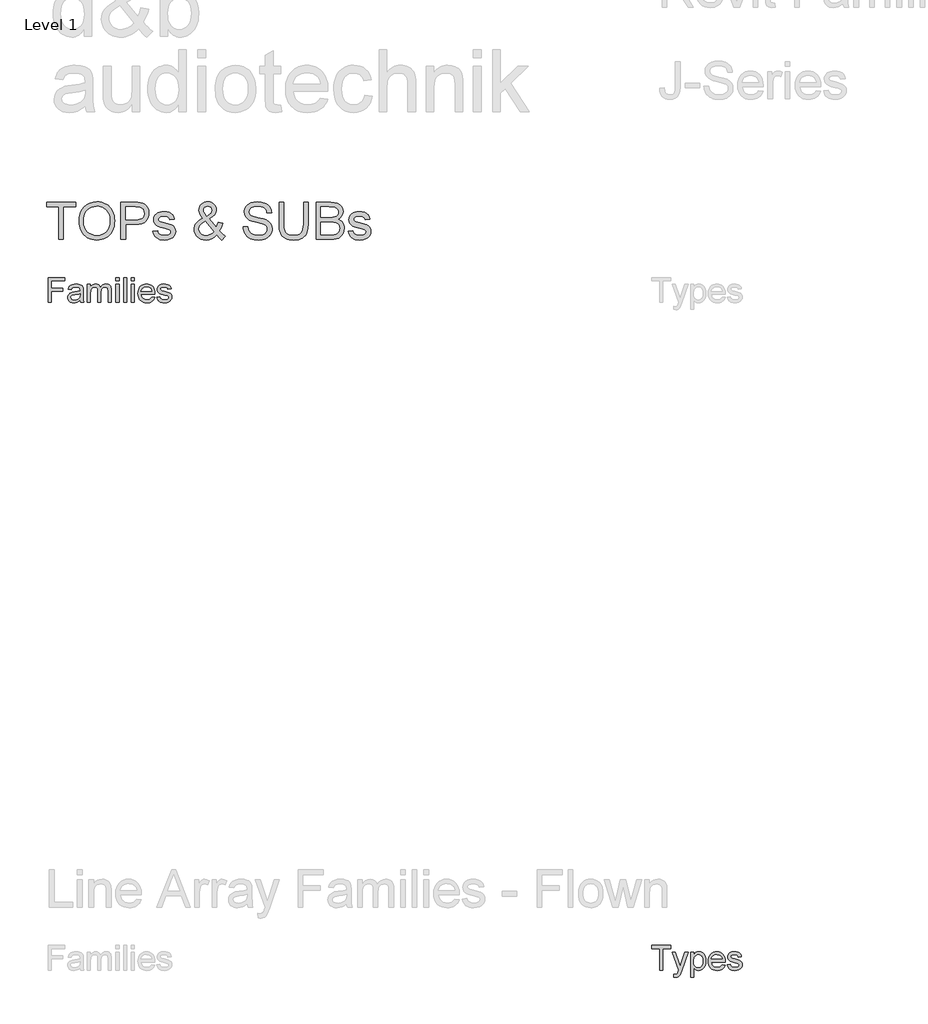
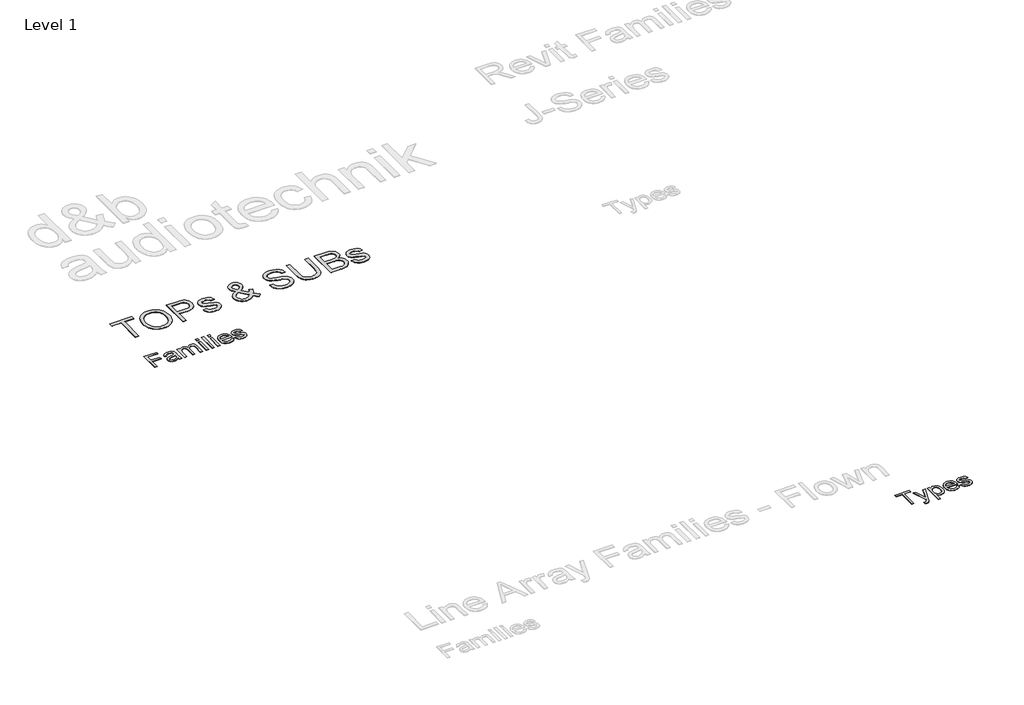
# One storey, part 5 of 7: 3 proxies.
"""IFC4 building model written with IfcOpenShell, lengths in millimetres."""

from ifc_helpers import new_model, si_unit, origin, origin_with_axes, place, context, project, spatial, polyline, outline, extrude, element, save

model = new_model("IFC4")

# Units and contexts
model_context = context("Model", 3, world=origin())
ifc_project = project(units=[si_unit("LENGTHUNIT", "METRE", prefix="MILLI")], contexts=[model_context])

# Site, building, storey
site = spatial("IfcSite", under=ifc_project)
building = spatial("IfcBuilding", under=site)
storey = spatial("IfcBuildingStorey", under=building, Name="Level 1", Elevation=0.0)

# Proxies
placement = place(None, origin())
element("IfcBuildingElementProxy", 1, Name="400mm Arial", ObjectType="400mm Arial", at=placement, inside=storey, context=model_context, shape_type="SweptSolid", body=[
    extrude(outline(polyline([(-21056.720891, 17351.3054836), (-21056.720891, 17743.0630593), (-20793.5087698, 17743.0630593), (-20793.5087698, 17694.0933624), (-21007.7511941, 17694.0933624), (-21007.7511941, 17577.7903321), (-20824.1148304, 17577.7903321), (-20824.1148304, 17528.8206351), (-21007.7511941, 17528.8206351), (-21007.7511941, 17351.3054836), (-21056.720891, 17351.3054836)])), origin_with_axes(), (0.0, 0.0, 1.0), 5.0),
    extrude(outline(polyline([(-20548.660285, 17388.0327563), (-20572.0571836, 17367.97144), (-20596.1475009, 17354.8443093), (-20621.4811893, 17347.5992809), (-20648.6082016, 17345.1842715), (-20670.4120309, 17346.6368638), (-20689.5318522, 17350.9946408), (-20705.9676654, 17358.2576024), (-20719.7194706, 17368.4257487), (-20730.5780466, 17380.8534831), (-20738.3341723, 17394.895209), (-20742.9878477, 17410.5509263), (-20744.5390729, 17427.8206351), (-20742.1957963, 17448.1210612), (-20735.1659668, 17466.5564305), (-20724.3223352, 17482.3376805), (-20710.5376524, 17494.6757487), (-20676.2493001, 17510.7439305), (-20633.879035, 17518.1085139), (-20583.8094327, 17525.855673), (-20548.9472168, 17534.9418472), (-20548.660285, 17545.8452563), (-20552.0317338, 17567.6998965), (-20562.1460804, 17581.9986654), (-20584.7658721, 17592.6151427), (-20616.2805501, 17596.1539684), (-20645.4519516, 17593.7987364), (-20665.8241107, 17586.7330404), (-20679.7163929, 17573.6656872), (-20689.4481638, 17553.3054836), (-20738.4178607, 17559.4266957), (-20729.9175056, 17586.2069987), (-20717.2327282, 17607.2486654), (-20699.1799346, 17623.3407582), (-20674.5755312, 17635.2723396), (-20644.4835568, 17642.660834), (-20609.9680501, 17645.1236654), (-20576.8632916, 17642.9477658), (-20550.6209857, 17636.4200669), (-20530.8346458, 17626.6046076), (-20517.097785, 17614.5654268), (-20507.9876997, 17599.6808387), (-20502.0816865, 17581.3291578), (-20499.690588, 17538.480673), (-20499.690588, 17477.5554836), (-20497.2038456, 17392.4801995), (-20487.4481638, 17351.3054836), (-20536.4178607, 17351.3054836), (-20544.2606638, 17368.3301048), (-20548.660285, 17388.0327563)]), holes=[polyline([(-20548.660285, 17485.9721502), (-20581.5618001, 17477.8185044), (-20627.6621789, 17470.9560518), (-20669.7933342, 17463.0176048), (-20680.7565208, 17457.5898112), (-20688.8743001, 17450.105673), (-20693.8956069, 17441.1390536), (-20695.5693759, 17431.2638169), (-20691.9229507, 17416.7020271), (-20680.9836751, 17404.7704457), (-20662.990659, 17396.8080877), (-20638.1830122, 17394.1539684), (-20611.8809289, 17397.0830641), (-20588.6394516, 17405.870351), (-20569.7975956, 17418.8181493), (-20556.6943759, 17434.228779), (-20550.8840066, 17450.105673), (-20548.9472168, 17472.103779), (-20548.660285, 17485.9721502)])]), origin_with_axes(), (0.0, 0.0, 1.0), 5.0),
    extrude(outline(polyline([(-20432.3572547, 17351.3054836), (-20432.3572547, 17639.0024533), (-20383.3875577, 17639.0024533), (-20383.3875577, 17591.6587033), (-20368.658391, 17613.405744), (-20349.720891, 17630.4423207), (-20327.2206543, 17641.4533292), (-20301.8032774, 17645.1236654), (-20274.5686657, 17641.3815963), (-20252.7379365, 17630.1553889), (-20236.4306448, 17612.1862838), (-20225.7663456, 17588.2155215), (-20207.9167954, 17613.1128344), (-20187.5565918, 17630.8966294), (-20164.6857348, 17641.5669064), (-20139.3042244, 17645.1236654), (-20119.7002057, 17643.6441732), (-20102.4932632, 17639.2056966), (-20087.683397, 17631.8082357), (-20075.2706069, 17621.4517904), (-20065.4581365, 17608.0168058), (-20058.4492291, 17591.3837269), (-20054.2438846, 17571.5525539), (-20052.8421032, 17548.5232866), (-20052.8421032, 17351.3054836), (-20101.8118001, 17351.3054836), (-20101.8118001, 17527.4816199), (-20106.3548872, 17568.369404), (-20112.7391202, 17579.6434334), (-20122.8056448, 17588.5024533), (-20135.7534431, 17594.2410896), (-20150.7814971, 17596.1539684), (-20177.3107348, 17591.2522165), (-20198.9382206, 17576.5469608), (-20207.3279874, 17565.2669537), (-20213.320678, 17551.03394), (-20218.1148304, 17513.7088927), (-20218.1148304, 17351.3054836), (-20267.0845274, 17351.3054836), (-20267.0845274, 17532.9333245), (-20269.9179791, 17560.6222449), (-20278.4183342, 17580.3727184), (-20293.3746552, 17592.2086559), (-20315.5760047, 17596.1539684), (-20334.4417717, 17593.5237601), (-20351.8250577, 17585.6331351), (-20366.1716486, 17572.6733813), (-20375.9273304, 17554.8357866), (-20381.5225009, 17530.0879173), (-20383.3875577, 17496.3973396), (-20383.3875577, 17351.3054836), (-20432.3572547, 17351.3054836)])), origin_with_axes(), (0.0, 0.0, 1.0), 5.0),
    extrude(outline(polyline([(-19979.3875577, 17351.3054836), (-19979.3875577, 17639.0024533), (-19930.4178607, 17639.0024533), (-19930.4178607, 17351.3054836), (-19979.3875577, 17351.3054836)])), origin_with_axes(), (0.0, 0.0, 1.0), 5.0),
    extrude(outline(polyline([(-19979.3875577, 17694.0933624), (-19979.3875577, 17743.0630593), (-19930.4178607, 17743.0630593), (-19930.4178607, 17694.0933624), (-19979.3875577, 17694.0933624)])), origin_with_axes(), (0.0, 0.0, 1.0), 5.0),
    extrude(outline(polyline([(-19856.9633153, 17351.3054836), (-19856.9633153, 17743.0630593), (-19807.9936183, 17743.0630593), (-19807.9936183, 17351.3054836), (-19856.9633153, 17351.3054836)])), origin_with_axes(), (0.0, 0.0, 1.0), 5.0),
    extrude(outline(polyline([(-19734.5390729, 17351.3054836), (-19734.5390729, 17639.0024533), (-19685.5693759, 17639.0024533), (-19685.5693759, 17351.3054836), (-19734.5390729, 17351.3054836)])), origin_with_axes(), (0.0, 0.0, 1.0), 5.0),
    extrude(outline(polyline([(-19734.5390729, 17694.0933624), (-19734.5390729, 17743.0630593), (-19685.5693759, 17743.0630593), (-19685.5693759, 17694.0933624), (-19734.5390729, 17694.0933624)])), origin_with_axes(), (0.0, 0.0, 1.0), 5.0),
    extrude(outline(polyline([(-19410.6886941, 17437.0024533), (-19362.6754365, 17430.8812411), (-19370.0370309, 17411.6508316), (-19379.975034, 17394.7039211), (-19392.4894457, 17380.0405096), (-19407.580266, 17367.6605972), (-19425.0920736, 17357.8272047), (-19444.8694469, 17350.8033529), (-19491.220891, 17345.1842715), (-19521.605775, 17347.6082475), (-19548.6789876, 17354.8801758), (-19572.4405288, 17367.0000563), (-19592.8903986, 17383.9678889), (-19609.3351784, 17405.3114317), (-19621.0814497, 17430.5584429), (-19628.1292125, 17459.7089223), (-19630.4784668, 17492.7628699), (-19628.1053015, 17526.937645), (-19620.9858058, 17557.0595082), (-19609.1199796, 17583.1284594), (-19592.5078229, 17605.1444987), (-19572.1117528, 17622.6353841), (-19548.8941865, 17635.1288737), (-19522.855124, 17642.6249675), (-19493.9945653, 17645.1236654), (-19466.0635461, 17642.6309452), (-19440.8045795, 17635.1527847), (-19418.2176654, 17622.6891839), (-19398.3028039, 17605.2401427), (-19382.0463231, 17583.2719253), (-19370.4345511, 17557.2507961), (-19363.4674879, 17527.1767549), (-19361.1451335, 17493.0498018), (-19361.4320653, 17479.8509381), (-19581.5087698, 17479.8509381), (-19578.6723292, 17460.3096858), (-19573.0323257, 17443.1953983), (-19564.5887592, 17428.5080759), (-19553.3416297, 17416.2477184), (-19524.9234242, 17399.6774059), (-19490.2644516, 17394.1539684), (-19464.2014782, 17396.7124438), (-19442.2511941, 17404.3878699), (-19424.4135994, 17417.6584665), (-19410.6886941, 17437.0024533)]), holes=[polyline([(-19581.5087698, 17528.8206351), (-19410.1148304, 17528.8206351), (-19416.7381732, 17554.6923207), (-19429.721838, 17573.199423), (-19443.076123, 17583.2420366), (-19458.2715539, 17590.4153321), (-19494.1858532, 17596.1539684), (-19527.1949677, 17591.5750148), (-19554.4893569, 17577.838154), (-19573.4627234, 17556.4258671), (-19581.5087698, 17528.8206351)])]), origin_with_axes(), (0.0, 0.0, 1.0), 5.0),
    extrude(outline(polyline([(-19330.5390729, 17437.0024533), (-19281.5693759, 17443.1236654), (-19273.8461278, 17422.1776427), (-19258.9017622, 17406.7789684), (-19236.6406354, 17397.3102184), (-19206.9671032, 17394.1539684), (-19177.6522357, 17397.0471976), (-19157.0409668, 17405.7268851), (-19144.8463645, 17418.3040631), (-19140.7814971, 17432.8897639), (-19144.8702755, 17445.371298), (-19157.1366107, 17454.8878699), (-19207.5409668, 17468.8518851), (-19281.2824441, 17492.8106919), (-19299.9449677, 17504.8498728), (-19313.4666297, 17520.7865442), (-19321.680053, 17539.6044893), (-19324.4178607, 17560.2874911), (-19322.2180501, 17579.2608576), (-19315.6186183, 17596.775654), (-19305.2173399, 17612.1384618), (-19291.6119895, 17624.6558624), (-19260.4798872, 17639.1459192), (-19218.3487319, 17645.1236654), (-19186.4753891, 17642.7206114), (-19158.7625577, 17635.5114495), (-19136.4775198, 17624.2015536), (-19120.8875577, 17609.496298), (-19110.5580122, 17590.3077326), (-19104.0542244, 17565.5479078), (-19153.0239213, 17559.4266957), (-19159.2049109, 17574.8373254), (-19171.4353797, 17586.4461086), (-19189.8348825, 17593.7270035), (-19214.5229744, 17596.1539684), (-19242.6422925, 17593.8346029), (-19261.3885047, 17586.8765063), (-19271.933249, 17576.8338927), (-19275.4481638, 17565.260976), (-19269.6138835, 17551.010029), (-19251.345891, 17540.2022639), (-19209.1669138, 17529.7770745), (-19137.2904933, 17506.7268851), (-19118.3051713, 17495.7039211), (-19103.9107585, 17480.6160896), (-19094.8365397, 17461.4155688), (-19091.8118001, 17438.0545366), (-19095.3625814, 17413.9044419), (-19106.0149251, 17391.1890063), (-19123.3623446, 17371.6895982), (-19146.9983532, 17357.1875858), (-19175.5480691, 17348.1851), (-19207.6366107, 17345.1842715), (-19233.9924938, 17346.630886), (-19257.0127944, 17350.9707298), (-19276.6975127, 17358.2038027), (-19293.0466486, 17368.3301048), (-19306.4009336, 17381.3018141), (-19317.1010994, 17397.0711086), (-19325.1471458, 17415.6379883), (-19330.5390729, 17437.0024533)])), origin_with_axes(), (0.0, 0.0, 1.0), 5.0),
])
element("IfcBuildingElementProxy", 2, Name="400mm Arial", ObjectType="400mm Arial", at=placement, inside=storey, context=model_context, shape_type="SweptSolid", body=[
    extrude(outline(polyline([(-11345.9583027, 6751.3054836), (-11345.9583027, 7094.0933624), (-11474.5037572, 7094.0933624), (-11474.5037572, 7143.0630593), (-11168.4431512, 7143.0630593), (-11168.4431512, 7094.0933624), (-11296.9886057, 7094.0933624), (-11296.9886057, 6751.3054836), (-11345.9583027, 6751.3054836)])), origin_with_axes(), (0.0, 0.0, 1.0), 5.0),
    extrude(outline(polyline([(-11119.4734542, 6641.1236654), (-11125.5946663, 6688.2761275), (-11100.7272421, 6683.9721502), (-11087.6479334, 6685.3231209), (-11077.4857648, 6689.3760328), (-11063.2348179, 6704.4399533), (-11049.8446663, 6740.4977184), (-11046.0189088, 6752.3575669), (-11150.0795148, 7039.0024533), (-11098.4317875, 7039.0024533), (-11043.2452345, 6879.2770745), (-11024.0208027, 6815.386923), (-11004.7963709, 6871.8168472), (-10948.0795148, 7039.0024533), (-10896.8143633, 7039.0024533), (-10996.9535679, 6744.4191199), (-11022.9687194, 6680.5289684), (-11036.2871379, 6660.1328983), (-11051.3749694, 6646.0015063), (-11068.9017213, 6637.7522165), (-11089.5369012, 6635.0024533), (-11119.4734542, 6641.1236654)])), origin_with_axes(), (0.0, 0.0, 1.0), 5.0),
    extrude(outline(polyline([(-10856.261333, 6641.1236654), (-10856.261333, 7039.0024533), (-10807.291636, 7039.0024533), (-10807.291636, 6990.9891957), (-10791.3190982, 7014.6730262), (-10773.4336815, 7031.590048), (-10752.5833027, 7041.740261), (-10727.7158785, 7045.1236654), (-10694.5991644, 7040.3892904), (-10665.6429618, 7026.1861654), (-10642.0667307, 7003.3750858), (-10625.0899315, 6972.8168472), (-10614.832119, 6936.7351711), (-10611.4128482, 6897.353779), (-10615.2744722, 6855.4736891), (-10626.8593444, 6818.0171313), (-10645.7968444, 6786.885029), (-10671.7163519, 6763.9783055), (-10701.9039703, 6749.88278), (-10733.6458027, 6745.1842715), (-10756.1579949, 6748.328566), (-10776.2551777, 6757.7614495), (-10793.4591313, 6772.000441), (-10807.291636, 6789.5630593), (-10807.291636, 6641.1236654), (-10856.261333, 6641.1236654)]), holes=[polyline([(-10807.291636, 6892.8585139), (-10801.9953529, 6848.9579457), (-10795.374999, 6831.9572355), (-10786.1065035, 6818.2562411), (-10762.6617828, 6800.1795366), (-10749.2447314, 6795.6603605), (-10734.697886, 6794.1539684), (-10719.9418195, 6795.7141602), (-10706.2796805, 6800.3947355), (-10682.2371853, 6819.1170366), (-10672.6757802, 6833.3141839), (-10665.8462052, 6850.9425574), (-10660.3825451, 6896.4929836), (-10665.7146947, 6940.1544419), (-10672.3798818, 6957.2866625), (-10681.7111436, 6971.2865442), (-10705.1199978, 6989.9371124), (-10718.3846166, 6994.5997544), (-10732.6893633, 6996.1539684), (-10746.9492769, 6994.5011216), (-10760.3663283, 6989.5425811), (-10784.6718444, 6969.7084192), (-10794.5680032, 6954.9882191), (-10801.6366881, 6937.2731682), (-10805.8778991, 6916.5632665), (-10807.291636, 6892.8585139)])]), origin_with_axes(), (0.0, 0.0, 1.0), 5.0),
    extrude(outline(polyline([(-10354.8958027, 6837.0024533), (-10306.8825451, 6830.8812411), (-10314.2441396, 6811.6508316), (-10324.1821427, 6794.7039211), (-10336.6965544, 6780.0405096), (-10351.7873747, 6767.6605972), (-10369.2991822, 6757.8272047), (-10389.0765555, 6750.8033529), (-10435.4279997, 6745.1842715), (-10465.8128837, 6747.6082475), (-10492.8860963, 6754.8801758), (-10516.6476375, 6767.0000563), (-10537.0975072, 6783.9678889), (-10553.5422871, 6805.3114317), (-10565.2885584, 6830.5584429), (-10572.3363212, 6859.7089223), (-10574.6855754, 6892.7628699), (-10572.3124102, 6926.937645), (-10565.1929144, 6957.0595082), (-10553.3270882, 6983.1284594), (-10536.7149315, 7005.1444987), (-10516.3188614, 7022.6353841), (-10493.1012951, 7035.1288737), (-10467.0622326, 7042.6249675), (-10438.2016739, 7045.1236654), (-10410.2706547, 7042.6309452), (-10385.0116881, 7035.1527847), (-10362.4247741, 7022.6891839), (-10342.5099125, 7005.2401427), (-10326.2534317, 6983.2719253), (-10314.6416597, 6957.2507961), (-10307.6745965, 6927.1767549), (-10305.3522421, 6893.0498018), (-10305.6391739, 6879.8509381), (-10525.7158785, 6879.8509381), (-10522.8794379, 6860.3096858), (-10517.2394343, 6843.1953983), (-10508.7958678, 6828.5080759), (-10497.5487383, 6816.2477184), (-10469.1305328, 6799.6774059), (-10434.4715603, 6794.1539684), (-10408.4085868, 6796.7124438), (-10386.4583027, 6804.3878699), (-10368.620708, 6817.6584665), (-10354.8958027, 6837.0024533)]), holes=[polyline([(-10525.7158785, 6928.8206351), (-10354.3219391, 6928.8206351), (-10360.9452819, 6954.6923207), (-10373.9289466, 6973.199423), (-10387.2832317, 6983.2420366), (-10402.4786625, 6990.4153321), (-10438.3929618, 6996.1539684), (-10471.4020764, 6991.5750148), (-10498.6964656, 6977.838154), (-10517.6698321, 6956.4258671), (-10525.7158785, 6928.8206351)])]), origin_with_axes(), (0.0, 0.0, 1.0), 5.0),
    extrude(outline(polyline([(-10274.7461815, 6837.0024533), (-10225.7764845, 6843.1236654), (-10218.0532364, 6822.1776427), (-10203.1088709, 6806.7789684), (-10180.847744, 6797.3102184), (-10151.1742118, 6794.1539684), (-10121.8593444, 6797.0471976), (-10101.2480754, 6805.7268851), (-10089.0534732, 6818.3040631), (-10084.9886057, 6832.8897639), (-10089.0773841, 6845.371298), (-10101.3437194, 6854.8878699), (-10151.7480754, 6868.8518851), (-10225.4895527, 6892.8106919), (-10244.1520764, 6904.8498728), (-10257.6737383, 6920.7865442), (-10265.8871616, 6939.6044893), (-10268.6249694, 6960.2874911), (-10266.4251588, 6979.2608576), (-10259.8257269, 6996.775654), (-10249.4244485, 7012.1384618), (-10235.8190982, 7024.6558624), (-10204.6869959, 7039.1459192), (-10162.5558406, 7045.1236654), (-10130.6824978, 7042.7206114), (-10102.9696663, 7035.5114495), (-10080.6846285, 7024.2015536), (-10065.0946663, 7009.496298), (-10054.7651209, 6990.3077326), (-10048.261333, 6965.5479078), (-10097.23103, 6959.4266957), (-10103.4120196, 6974.8373254), (-10115.6424883, 6986.4461086), (-10134.0419911, 6993.7270035), (-10158.730083, 6996.1539684), (-10186.8494012, 6993.8346029), (-10205.5956133, 6986.8765063), (-10216.1403576, 6976.8338927), (-10219.6552724, 6965.260976), (-10213.8209921, 6951.010029), (-10195.5529997, 6940.2022639), (-10153.3740224, 6929.7770745), (-10081.4976019, 6906.7268851), (-10062.51228, 6895.7039211), (-10048.1178671, 6880.6160896), (-10039.0436483, 6861.4155688), (-10036.0189088, 6838.0545366), (-10039.56969, 6813.9044419), (-10050.2220338, 6791.1890063), (-10067.5694533, 6771.6895982), (-10091.2054618, 6757.1875858), (-10119.7551777, 6748.1851), (-10151.8437194, 6745.1842715), (-10178.1996024, 6746.630886), (-10201.2199031, 6750.9707298), (-10220.9046214, 6758.2038027), (-10237.2537572, 6768.3301048), (-10250.6080423, 6781.3018141), (-10261.308208, 6797.0711086), (-10269.3542544, 6815.6379883), (-10274.7461815, 6837.0024533)])), origin_with_axes(), (0.0, 0.0, 1.0), 5.0),
])
element("IfcBuildingElementProxy", 3, Name="600mm Arial", ObjectType="600mm Arial", at=placement, inside=storey, context=model_context, shape_type="SweptSolid", body=[
    extrude(outline(polyline([(-20887.2616836, 18351.3054836), (-20887.2616836, 18868.2285605), (-21081.1078374, 18868.2285605), (-21081.1078374, 18942.0747143), (-20619.5693759, 18942.0747143), (-20619.5693759, 18868.2285605), (-20813.4155297, 18868.2285605), (-20813.4155297, 18351.3054836), (-20887.2616836, 18351.3054836)])), origin_with_axes(), (0.0, 0.0, 1.0), 5.0),
    extrude(outline(polyline([(-20564.1847605, 18638.9016374), (-20559.2628855, 18708.1955076), (-20544.4972605, 18769.5386566), (-20519.8878855, 18822.9310845), (-20485.4347605, 18868.3727913), (-20443.2021884, 18904.6558441), (-20395.254472, 18930.5723105), (-20341.5916115, 18946.1221903), (-20282.2136067, 18951.3054836), (-20242.4690153, 18948.8715893), (-20204.7256259, 18941.5699066), (-20168.9834384, 18929.4004355), (-20135.2424528, 18912.3631759), (-20104.4491836, 18890.9719499), (-20077.5501451, 18865.7405797), (-20054.5453374, 18836.6690653), (-20035.4347605, 18803.7574066), (-20020.4167317, 18767.7538009), (-20009.6895682, 18729.4064451), (-20003.2532701, 18688.7153393), (-20001.1078374, 18645.6804836), (-20003.3659504, 18602.0777191), (-20010.1402893, 18560.8367336), (-20021.4308542, 18521.9575268), (-20037.2376451, 18485.440099), (-20057.1865634, 18452.2489932), (-20080.9035105, 18423.3487528), (-20108.3884865, 18398.7393778), (-20139.6414913, 18378.4208682), (-20173.4320562, 18362.5194259), (-20208.5297124, 18351.1612528), (-20244.93446, 18344.346349), (-20282.646299, 18342.0747143), (-20323.0850009, 18344.5852312), (-20361.3241836, 18352.1167816), (-20397.363847, 18364.6693658), (-20431.2039913, 18382.2429836), (-20461.9612028, 18404.1570461), (-20488.7520682, 18429.7309643), (-20511.5765874, 18458.9647384), (-20530.4347605, 18491.8583682), (-20545.2003855, 18527.0912408), (-20555.7472605, 18563.3427432), (-20562.0753855, 18600.6128754), (-20564.1847605, 18638.9016374)]), holes=[polyline([(-20490.3386067, 18638.1804836), (-20486.6472004, 18589.2231518), (-20475.5729817, 18545.7646182), (-20457.1159504, 18507.8048826), (-20431.2761067, 18475.3439451), (-20399.8653494, 18449.346349), (-20364.6955778, 18430.7766374), (-20325.7667917, 18419.6348105), (-20283.0789913, 18415.9208682), (-20239.6610225, 18419.6708682), (-20200.2725009, 18430.9208682), (-20164.9134264, 18449.6708682), (-20133.583799, 18475.9208682), (-20107.9332581, 18509.0669018), (-20089.6114432, 18548.5050028), (-20078.6183542, 18594.2351711), (-20074.9539913, 18646.2574066), (-20076.5225009, 18680.0524788), (-20081.2280297, 18711.6300028), (-20089.0705778, 18740.9899788), (-20100.0501451, 18768.1324066), (-20114.0450369, 18792.7012167), (-20130.9335586, 18814.3403393), (-20150.71571, 18833.0497744), (-20173.3914913, 18848.829522), (-20198.2577773, 18861.3550629), (-20224.6114432, 18870.3018778), (-20252.4524889, 18875.6699667), (-20281.7809143, 18877.4593297), (-20322.9858422, 18874.0113129), (-20361.2160105, 18863.6672624), (-20396.4714192, 18846.4271783), (-20428.7520682, 18822.2910605), (-20455.6961788, 18790.0960485), (-20474.941972, 18748.6792816), (-20486.489448, 18698.04076), (-20490.3386067, 18638.1804836)])]), origin_with_axes(), (0.0, 0.0, 1.0), 5.0),
    extrude(outline(polyline([(-19899.5693759, 18351.3054836), (-19899.5693759, 18942.0747143), (-19680.6270682, 18942.0747143), (-19629.6414913, 18940.6684643), (-19592.3578374, 18936.4497143), (-19553.0008663, 18925.938897), (-19520.6030297, 18908.829522), (-19494.5152893, 18884.346349), (-19474.0886067, 18851.7141374), (-19460.8914913, 18813.2225509), (-19456.4924528, 18771.1612528), (-19459.4627052, 18734.8962288), (-19468.3734624, 18701.533849), (-19483.2247244, 18671.0741134), (-19504.0164913, 18643.517022), (-19532.5606619, 18620.674474), (-19570.6691355, 18604.3583682), (-19618.3419119, 18594.5687047), (-19675.5789913, 18591.3054836), (-19825.723222, 18591.3054836), (-19825.723222, 18351.3054836), (-19899.5693759, 18351.3054836)]), holes=[polyline([(-19825.723222, 18665.1516374), (-19671.2520682, 18665.1516374), (-19635.7352413, 18666.846349), (-19605.771299, 18671.9304836), (-19581.3602413, 18680.4040413), (-19562.5020682, 18692.267022), (-19548.4305538, 18707.2039211), (-19538.379472, 18724.8992336), (-19532.348823, 18745.3529595), (-19530.3386067, 18768.565099), (-19535.0801932, 18801.7381759), (-19549.3049528, 18829.7189451), (-19571.2460586, 18850.7766374), (-19599.1366836, 18863.1804836), (-19627.6222605, 18866.9665413), (-19672.9828374, 18868.2285605), (-19825.723222, 18868.2285605), (-19825.723222, 18665.1516374)])]), origin_with_axes(), (0.0, 0.0, 1.0), 5.0),
    extrude(outline(polyline([(-19391.8770682, 18480.5362528), (-19318.0309143, 18489.767022), (-19313.5687749, 18472.9280797), (-19306.3842797, 18458.1804836), (-19296.4774288, 18445.5242336), (-19283.848222, 18434.9593297), (-19268.4606018, 18426.6300028), (-19250.2785105, 18420.6804836), (-19205.5309143, 18415.9208682), (-19161.3241836, 18420.283849), (-19144.1426932, 18425.7375749), (-19130.2424528, 18433.3727913), (-19111.8530297, 18452.3391374), (-19105.723222, 18474.3343297), (-19107.2646884, 18484.3042816), (-19111.8890874, 18493.1564451), (-19130.3866836, 18507.5074066), (-19158.0429336, 18516.8824066), (-19206.396299, 18528.565099), (-19273.7881259, 18548.0542816), (-19317.598222, 18564.6949066), (-19345.7412509, 18582.8499547), (-19366.1318759, 18606.8824066), (-19378.5176932, 18635.2598105), (-19382.646299, 18666.4497143), (-19379.3289913, 18695.0614932), (-19369.3770682, 18721.4737528), (-19353.691972, 18744.6408201), (-19333.1751451, 18763.517022), (-19312.7845201, 18775.3980316), (-19286.2280297, 18785.3679836), (-19255.5249047, 18792.1288009), (-19222.6943759, 18794.3824066), (-19174.629472, 18790.7586086), (-19132.8386067, 18779.8872143), (-19099.2328374, 18762.8319259), (-19075.723222, 18740.6564451), (-19060.146299, 18711.720147), (-19050.3386067, 18674.3824066), (-19124.1847605, 18665.1516374), (-19133.505674, 18688.3908201), (-19151.9491836, 18705.8968297), (-19179.6955778, 18716.876397), (-19216.9251451, 18720.5362528), (-19259.3289913, 18717.0386566), (-19287.598222, 18706.5458682), (-19303.4996643, 18691.4016374), (-19308.8001451, 18673.9497143), (-19306.6006259, 18662.5915413), (-19300.0020682, 18652.4593297), (-19288.7160105, 18643.408849), (-19272.4539913, 18636.1612528), (-19208.848222, 18620.440099), (-19100.458799, 18585.6804836), (-19071.8289913, 18569.0578874), (-19050.1222605, 18546.3054836), (-19036.4383663, 18517.3511566), (-19031.8770682, 18482.1227913), (-19037.2316355, 18445.704522), (-19053.2953374, 18411.4497143), (-19079.4551932, 18382.0446663), (-19115.098222, 18360.1756759), (-19158.1511067, 18346.5999547), (-19206.5405297, 18342.0747143), (-19246.2851211, 18344.2562047), (-19280.9996643, 18350.8006759), (-19310.6841595, 18361.7081278), (-19335.3386067, 18376.9785605), (-19355.4768278, 18396.5398586), (-19371.6126451, 18420.3199066), (-19383.7460586, 18448.3187047), (-19391.8770682, 18480.5362528)])), origin_with_axes(), (0.0, 0.0, 1.0), 5.0),
    extrude(outline(polyline([(-18379.2328374, 18424.2862528), (-18416.7688951, 18388.3187047), (-18457.5501451, 18362.627599), (-18501.6487028, 18347.2129355), (-18549.1366836, 18342.0747143), (-18592.2256259, 18345.8788009), (-18630.6270682, 18357.2910605), (-18664.3410105, 18376.3114932), (-18693.3674528, 18402.940099), (-18712.2346403, 18428.4779595), (-18725.7112028, 18455.4761566), (-18733.7971403, 18483.9346903), (-18736.4924528, 18513.8535605), (-18734.3244841, 18540.3830076), (-18727.8205778, 18565.596349), (-18716.9807341, 18589.4935845), (-18701.8049528, 18612.0747143), (-18682.3202773, 18633.330724), (-18658.5537509, 18653.252599), (-18630.5053735, 18671.8403393), (-18598.1751451, 18689.0939451), (-18630.3926932, 18730.7766374), (-18649.7376451, 18763.8054836), (-18659.4191355, 18792.002599), (-18662.646299, 18819.190099), (-18660.1042317, 18844.9983922), (-18652.4780297, 18869.0578874), (-18639.7676932, 18891.3685845), (-18621.973222, 18911.9304836), (-18600.3295922, 18929.1570461), (-18576.0717797, 18941.4617336), (-18549.1997845, 18948.8445461), (-18519.7136067, 18951.3054836), (-18491.5615634, 18948.9527191), (-18466.0958182, 18941.8944259), (-18443.3163711, 18930.1306038), (-18423.223222, 18913.6612528), (-18406.816972, 18893.892623), (-18395.098222, 18872.2309643), (-18388.066972, 18848.6762768), (-18385.723222, 18823.2285605), (-18387.4584985, 18802.2700268), (-18392.6643278, 18782.0867336), (-18401.34071, 18762.6786807), (-18413.4876451, 18744.0458682), (-18448.193174, 18709.1059643), (-18496.7809143, 18677.267022), (-18389.9059143, 18544.142022), (-18371.6967797, 18582.1828874), (-18358.0309143, 18625.9208682), (-18284.1847605, 18609.9112528), (-18306.9011067, 18541.5098105), (-18320.801347, 18513.0152191), (-18336.396299, 18488.3247143), (-18294.4251451, 18439.3583682), (-18247.2616836, 18398.9016374), (-18302.646299, 18342.0747143), (-18340.3265874, 18376.5458682), (-18379.2328374, 18424.2862528)]), holes=[polyline([(-18428.7039913, 18477.5074066), (-18560.5309143, 18642.0747143), (-18610.8854817, 18609.9473105), (-18641.660722, 18580.1997143), (-18657.3999047, 18551.7862528), (-18662.646299, 18523.6612528), (-18660.8524288, 18506.407647), (-18655.4708182, 18488.829522), (-18633.9443759, 18452.6997143), (-18618.0970201, 18436.6089691), (-18599.2568759, 18425.1155797), (-18577.4239432, 18418.2195461), (-18552.598222, 18415.9208682), (-18519.1907701, 18420.2117336), (-18484.7376451, 18433.0843297), (-18453.2412509, 18452.7718297), (-18428.7039913, 18477.5074066)]), polyline([(-18534.1366836, 18723.8535605), (-18495.5188951, 18748.3547624), (-18473.4155297, 18769.6468297), (-18463.0309143, 18790.361974), (-18459.5693759, 18813.1324066), (-18464.130674, 18838.9316855), (-18477.8145682, 18859.502599), (-18498.349424, 18872.970147), (-18523.4636067, 18877.4593297), (-18549.1186547, 18873.0062047), (-18570.1222605, 18859.6468297), (-18584.130674, 18839.8691855), (-18588.8001451, 18816.1612528), (-18582.4539913, 18789.1179836), (-18563.271299, 18759.0458682), (-18534.1366836, 18723.8535605)])]), origin_with_axes(), (0.0, 0.0, 1.0), 5.0),
    extrude(outline(polyline([(-17961.1078374, 18554.3824066), (-17887.2616836, 18554.3824066), (-17878.7881259, 18513.4028393), (-17863.4636067, 18480.4641374), (-17839.5573567, 18454.3223105), (-17805.3386067, 18433.7333682), (-17763.5116836, 18420.3739932), (-17716.7809143, 18415.9208682), (-17675.6390874, 18419.2922624), (-17639.6174528, 18429.4064451), (-17610.4287509, 18445.4160605), (-17589.785722, 18466.4737528), (-17577.5080778, 18490.6504355), (-17573.4155297, 18516.017022), (-17576.4804336, 18540.7345701), (-17585.6751451, 18562.0987528), (-17604.3530297, 18580.3259163), (-17635.8674528, 18595.6324066), (-17743.3914913, 18623.829522), (-17813.974424, 18642.4893778), (-17859.1366836, 18660.2477913), (-17895.8975009, 18685.0915413), (-17921.9491836, 18715.1997143), (-17937.4720201, 18749.923272), (-17942.646299, 18788.6131759), (-17941.0462389, 18810.603861), (-17936.2460586, 18831.8643778), (-17928.2457581, 18852.3947264), (-17917.0453374, 18872.1949066), (-17902.7709985, 18890.4581278), (-17885.5489432, 18906.377599), (-17865.3791716, 18919.9533201), (-17842.2616836, 18931.1852913), (-17790.302549, 18946.2754355), (-17732.7905297, 18951.3054836), (-17670.4828374, 18946.0410605), (-17615.9636067, 18930.2477913), (-17592.1114432, 18918.4839691), (-17571.1799528, 18904.2501951), (-17553.1691355, 18887.5464691), (-17538.0789913, 18868.3727913), (-17526.0267076, 18847.2880557), (-17517.129472, 18824.8511566), (-17511.3872845, 18801.0620941), (-17508.8001451, 18775.9208682), (-17582.646299, 18775.9208682), (-17587.5862028, 18799.4845701), (-17596.2039913, 18819.9833682), (-17608.4996643, 18837.4172624), (-17624.473222, 18851.7862528), (-17644.4221403, 18863.018224), (-17668.6438951, 18871.0410605), (-17697.1384865, 18875.8547624), (-17729.9059143, 18877.4593297), (-17763.7190153, 18875.8727913), (-17792.6102413, 18871.1131759), (-17816.5795922, 18863.1804836), (-17835.6270682, 18852.0747143), (-17850.1402893, 18838.7243538), (-17860.5068759, 18824.0578874), (-17866.7268278, 18808.0753153), (-17868.8001451, 18790.7766374), (-17862.9227413, 18762.3992336), (-17845.2905297, 18739.5747143), (-17829.1006259, 18729.424474), (-17803.6078374, 18719.1660605), (-17724.7136067, 18698.3247143), (-17643.2953374, 18678.5290413), (-17594.0405297, 18661.2574066), (-17551.943174, 18634.4665413), (-17535.6676331, 18618.7183441), (-17522.5741836, 18601.4016374), (-17512.5095802, 18582.6065653), (-17505.3205778, 18562.423272), (-17499.5693759, 18517.892022), (-17501.2235225, 18494.7925629), (-17506.1859624, 18472.3691855), (-17514.4566956, 18450.6218898), (-17526.035722, 18429.5506759), (-17540.7202172, 18409.971349), (-17558.3073567, 18392.6997143), (-17578.7971403, 18377.735772), (-17602.1895682, 18365.079522), (-17627.8040514, 18355.0149187), (-17654.9600009, 18347.8259163), (-17713.896299, 18342.0747143), (-17751.6712389, 18343.6251951), (-17786.2460586, 18348.2766374), (-17817.6207581, 18356.0290413), (-17845.7953374, 18366.8824066), (-17870.9410706, 18380.8547624), (-17893.2292317, 18397.9641374), (-17912.6598206, 18418.2105316), (-17929.2328374, 18441.5939451), (-17942.583198, 18467.3571663), (-17952.3458182, 18494.7429836), (-17958.520698, 18523.751397), (-17961.1078374, 18554.3824066)])), origin_with_axes(), (0.0, 0.0, 1.0), 5.0),
    extrude(outline(polyline([(-17001.1078374, 18942.0747143), (-16927.2616836, 18942.0747143), (-16927.2616836, 18601.2574066), (-16932.2737028, 18521.4437047), (-16938.5387268, 18488.4193658), (-16947.3097605, 18459.9833682), (-16959.3440153, 18435.0584884), (-16975.3987028, 18412.5675028), (-16995.473823, 18392.5104115), (-17019.5693759, 18374.8872143), (-17047.7124047, 18360.5317456), (-17079.9299528, 18350.2778393), (-17116.2220201, 18344.1254956), (-17156.5886067, 18342.0747143), (-17195.9590994, 18343.8595701), (-17231.5705778, 18349.2141374), (-17263.4230417, 18358.1384163), (-17291.5164913, 18370.6324066), (-17315.8554336, 18386.5113129), (-17336.4443759, 18405.5903393), (-17353.2833182, 18427.869486), (-17366.3722605, 18453.3487528), (-17376.18446, 18482.9025389), (-17383.193174, 18517.4052432), (-17388.8001451, 18601.2574066), (-17388.8001451, 18942.0747143), (-17314.9539913, 18942.0747143), (-17314.9539913, 18603.8535605), (-17311.3121643, 18537.4893778), (-17300.3866836, 18491.2814451), (-17291.7959384, 18474.2486927), (-17280.5910105, 18459.2802432), (-17266.7718999, 18446.3760966), (-17250.3386067, 18435.5362528), (-17210.8914913, 18420.8247143), (-17163.5116836, 18415.9208682), (-17122.8115634, 18418.345748), (-17088.4035105, 18425.6203874), (-17060.2875249, 18437.7447865), (-17038.4636067, 18454.7189451), (-17022.1204576, 18478.5891374), (-17010.4467797, 18511.4016374), (-17003.442573, 18553.1564451), (-17001.1078374, 18603.8535605), (-17001.1078374, 18942.0747143)])), origin_with_axes(), (0.0, 0.0, 1.0), 5.0),
    extrude(outline(polyline([(-16798.0309143, 18351.3054836), (-16798.0309143, 18942.0747143), (-16572.598222, 18942.0747143), (-16510.5970201, 18937.7297624), (-16462.1895682, 18924.6949066), (-16425.0862028, 18902.6456278), (-16409.9149288, 18888.118885), (-16396.9972605, 18871.2574066), (-16379.3109624, 18834.3343297), (-16373.4155297, 18795.6804836), (-16378.3734624, 18760.1095701), (-16393.2472605, 18726.6660605), (-16418.145097, 18697.4052432), (-16453.1751451, 18674.3824066), (-16430.8869841, 18664.8812047), (-16411.3301932, 18652.5314451), (-16394.5047725, 18637.3331278), (-16380.410722, 18619.2862528), (-16369.2734023, 18598.9406999), (-16361.318174, 18576.846349), (-16356.5450369, 18553.0031999), (-16354.9539913, 18527.4112528), (-16359.2989432, 18486.2153393), (-16372.333799, 18448.0122143), (-16391.786924, 18415.5242336), (-16415.3866836, 18391.4737528), (-16444.286924, 18374.0578874), (-16479.6414913, 18361.4737528), (-16522.6042317, 18353.8475509), (-16574.3289913, 18351.3054836), (-16798.0309143, 18351.3054836)]), holes=[polyline([(-16724.1847605, 18702.0747143), (-16589.3289913, 18702.0747143), (-16542.1655297, 18703.6612528), (-16510.5789913, 18708.4208682), (-16483.0128855, 18719.3643778), (-16463.1991836, 18735.752599), (-16451.2460586, 18757.3331278), (-16447.2616836, 18783.8535605), (-16450.9756259, 18809.5987528), (-16462.1174528, 18832.0266374), (-16480.1823567, 18849.532647), (-16504.6655297, 18860.5122143), (-16542.2376451, 18866.299474), (-16599.5693759, 18868.2285605), (-16724.1847605, 18868.2285605), (-16724.1847605, 18702.0747143)]), polyline([(-16724.1847605, 18425.1516374), (-16572.7424528, 18425.1516374), (-16517.9347605, 18428.0362528), (-16492.4960586, 18434.4364932), (-16471.5645682, 18444.1179836), (-16454.5453374, 18457.9821663), (-16440.8434143, 18476.9304836), (-16431.8109624, 18500.1155797), (-16428.8001451, 18526.690099), (-16432.333799, 18557.5554836), (-16442.9347605, 18584.0939451), (-16461.4503855, 18604.845147), (-16488.7280297, 18618.3487528), (-16527.363847, 18625.7586086), (-16579.9539913, 18628.2285605), (-16724.1847605, 18628.2285605), (-16724.1847605, 18425.1516374)])]), origin_with_axes(), (0.0, 0.0, 1.0), 5.0),
    extrude(outline(polyline([(-16290.3386067, 18480.5362528), (-16216.4924528, 18489.767022), (-16212.0303134, 18472.9280797), (-16204.8458182, 18458.1804836), (-16194.9389672, 18445.5242336), (-16182.3097605, 18434.9593297), (-16166.9221403, 18426.6300028), (-16148.740049, 18420.6804836), (-16103.9924528, 18415.9208682), (-16059.785722, 18420.283849), (-16042.6042317, 18425.7375749), (-16028.7039913, 18433.3727913), (-16010.3145682, 18452.3391374), (-16004.1847605, 18474.3343297), (-16005.7262268, 18484.3042816), (-16010.3506259, 18493.1564451), (-16028.848222, 18507.5074066), (-16056.504472, 18516.8824066), (-16104.8578374, 18528.565099), (-16172.2496643, 18548.0542816), (-16216.0597605, 18564.6949066), (-16244.2027893, 18582.8499547), (-16264.5934143, 18606.8824066), (-16276.9792317, 18635.2598105), (-16281.1078374, 18666.4497143), (-16277.7905297, 18695.0614932), (-16267.8386067, 18721.4737528), (-16252.1535105, 18744.6408201), (-16231.6366836, 18763.517022), (-16211.2460586, 18775.3980316), (-16184.6895682, 18785.3679836), (-16153.9864432, 18792.1288009), (-16121.1559143, 18794.3824066), (-16073.0910105, 18790.7586086), (-16031.3001451, 18779.8872143), (-15997.6943759, 18762.8319259), (-15974.1847605, 18740.6564451), (-15958.6078374, 18711.720147), (-15948.8001451, 18674.3824066), (-16022.646299, 18665.1516374), (-16031.9672124, 18688.3908201), (-16050.410722, 18705.8968297), (-16078.1571163, 18716.876397), (-16115.3866836, 18720.5362528), (-16157.7905297, 18717.0386566), (-16186.0597605, 18706.5458682), (-16201.9612028, 18691.4016374), (-16207.2616836, 18673.9497143), (-16205.0621643, 18662.5915413), (-16198.4636067, 18652.4593297), (-16187.177549, 18643.408849), (-16170.9155297, 18636.1612528), (-16107.3097605, 18620.440099), (-15998.9203374, 18585.6804836), (-15970.2905297, 18569.0578874), (-15948.583799, 18546.3054836), (-15934.8999047, 18517.3511566), (-15930.3386067, 18482.1227913), (-15935.693174, 18445.704522), (-15951.7568759, 18411.4497143), (-15977.9167317, 18382.0446663), (-16013.5597605, 18360.1756759), (-16056.6126451, 18346.5999547), (-16105.0020682, 18342.0747143), (-16144.7466595, 18344.2562047), (-16179.4612028, 18350.8006759), (-16209.145698, 18361.7081278), (-16233.8001451, 18376.9785605), (-16253.9383663, 18396.5398586), (-16270.0741836, 18420.3199066), (-16282.207597, 18448.3187047), (-16290.3386067, 18480.5362528)])), origin_with_axes(), (0.0, 0.0, 1.0), 5.0),
])

save(model, "model.ifc")
